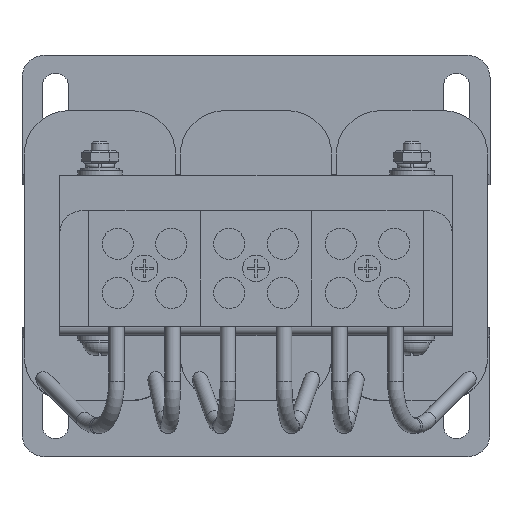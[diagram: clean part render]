
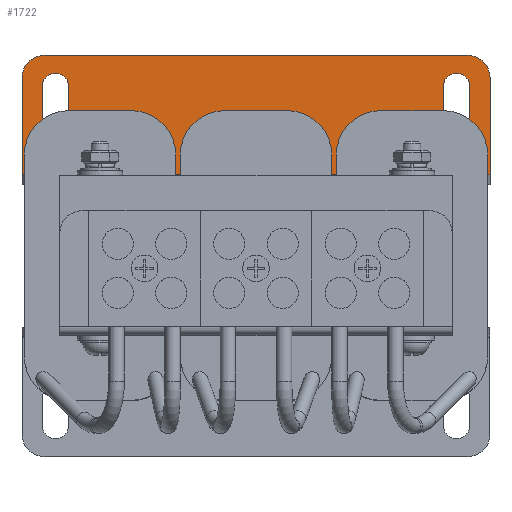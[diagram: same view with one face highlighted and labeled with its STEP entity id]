
A CAD part, top view. The second image highlights one B-rep face of the part: STEP entity #1722.
In plain terms, the highlighted planar face has unit normal (0, 0, 1).
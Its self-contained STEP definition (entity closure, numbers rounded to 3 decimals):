
#1722=ADVANCED_FACE('',(#2062,#2064,#2066),#2068,.T.);
#2062=FACE_BOUND('',#2063,.T.);
#2063=EDGE_LOOP('',(#3661,#3662,#3663,#3664,#3665,#3666));
#2064=FACE_BOUND('',#2065,.T.);
#2065=EDGE_LOOP('',(#3667,#3668,#3669,#3670));
#2066=FACE_BOUND('',#2067,.T.);
#2067=EDGE_LOOP('',(#3671,#3672,#3673,#3674));
#2068=PLANE('',#2069);
#2069=AXIS2_PLACEMENT_3D('',#2070,#2071,#2072);
#2070=CARTESIAN_POINT('',(0.,0.,2.2));
#2071=DIRECTION('',(0.,0.,1.));
#2072=DIRECTION('',(-1.,0.,0.));
#3661=ORIENTED_EDGE('',*,*,#4453,.F.);
#3662=ORIENTED_EDGE('',*,*,#4470,.T.);
#3663=ORIENTED_EDGE('',*,*,#4471,.T.);
#3664=ORIENTED_EDGE('',*,*,#4472,.T.);
#3665=ORIENTED_EDGE('',*,*,#4473,.T.);
#3666=ORIENTED_EDGE('',*,*,#4457,.T.);
#3667=ORIENTED_EDGE('',*,*,#4474,.T.);
#3668=ORIENTED_EDGE('',*,*,#4475,.T.);
#3669=ORIENTED_EDGE('',*,*,#4476,.T.);
#3670=ORIENTED_EDGE('',*,*,#4477,.T.);
#3671=ORIENTED_EDGE('',*,*,#4478,.T.);
#3672=ORIENTED_EDGE('',*,*,#4479,.T.);
#3673=ORIENTED_EDGE('',*,*,#4480,.T.);
#3674=ORIENTED_EDGE('',*,*,#4481,.T.);
#4453=EDGE_CURVE('',#4890,#4888,#4892,.T.);
#4457=EDGE_CURVE('',#4899,#4888,#4900,.T.);
#4470=EDGE_CURVE('',#4890,#4919,#4921,.T.);
#4471=EDGE_CURVE('',#4919,#4922,#4923,.T.);
#4472=EDGE_CURVE('',#4922,#4924,#4925,.T.);
#4473=EDGE_CURVE('',#4924,#4899,#4926,.T.);
#4474=EDGE_CURVE('',#4927,#4928,#4929,.F.);
#4475=EDGE_CURVE('',#4928,#4930,#4931,.F.);
#4476=EDGE_CURVE('',#4930,#4932,#4933,.F.);
#4477=EDGE_CURVE('',#4932,#4927,#4934,.F.);
#4478=EDGE_CURVE('',#4935,#4936,#4937,.F.);
#4479=EDGE_CURVE('',#4936,#4938,#4939,.F.);
#4480=EDGE_CURVE('',#4938,#4940,#4941,.F.);
#4481=EDGE_CURVE('',#4940,#4935,#4942,.F.);
#4888=VERTEX_POINT('',#5654);
#4890=VERTEX_POINT('',#5658);
#4892=LINE('',#5662,#5663);
#4899=VERTEX_POINT('',#5679);
#4900=LINE('',#5680,#5681);
#4919=VERTEX_POINT('',#5725);
#4921=LINE('',#5729,#5730);
#4922=VERTEX_POINT('',#5732);
#4923=CIRCLE('',#5733,5.);
#4924=VERTEX_POINT('',#5737);
#4925=LINE('',#5738,#5739);
#4926=CIRCLE('',#5741,5.);
#4927=VERTEX_POINT('',#5745);
#4928=VERTEX_POINT('',#5746);
#4929=LINE('',#5747,#5748);
#4930=VERTEX_POINT('',#5750);
#4931=CIRCLE('',#5751,3.);
#4932=VERTEX_POINT('',#5755);
#4933=LINE('',#5756,#5757);
#4934=CIRCLE('',#5759,3.);
#4935=VERTEX_POINT('',#5763);
#4936=VERTEX_POINT('',#5764);
#4937=CIRCLE('',#5765,3.);
#4938=VERTEX_POINT('',#5769);
#4939=LINE('',#5770,#5771);
#4940=VERTEX_POINT('',#5773);
#4941=CIRCLE('',#5774,3.);
#4942=LINE('',#5778,#5779);
#5654=CARTESIAN_POINT('',(-52.5,-12.3,2.2));
#5658=CARTESIAN_POINT('',(52.5,-12.3,2.2));
#5662=CARTESIAN_POINT('',(52.5,-12.3,2.2));
#5663=VECTOR('',#5664,1.);
#5664=DIRECTION('',(-1.,0.,0.));
#5679=CARTESIAN_POINT('',(-52.5,9.5,2.2));
#5680=CARTESIAN_POINT('',(-52.5,9.5,2.2));
#5681=VECTOR('',#5682,1.);
#5682=DIRECTION('',(0.,-1.,0.));
#5725=CARTESIAN_POINT('',(52.5,9.5,2.2));
#5729=CARTESIAN_POINT('',(52.5,-12.3,2.2));
#5730=VECTOR('',#5731,1.);
#5731=DIRECTION('',(0.,1.,0.));
#5732=CARTESIAN_POINT('',(47.5,14.5,2.2));
#5733=AXIS2_PLACEMENT_3D('',#5734,#5735,#5736);
#5734=CARTESIAN_POINT('',(47.5,9.5,2.2));
#5735=DIRECTION('',(0.,0.,1.));
#5736=DIRECTION('',(1.,0.,0.));
#5737=CARTESIAN_POINT('',(-47.5,14.5,2.2));
#5738=CARTESIAN_POINT('',(47.5,14.5,2.2));
#5739=VECTOR('',#5740,1.);
#5740=DIRECTION('',(-1.,0.,0.));
#5741=AXIS2_PLACEMENT_3D('',#5742,#5743,#5744);
#5742=CARTESIAN_POINT('',(-47.5,9.5,2.2));
#5743=DIRECTION('',(0.,0.,1.));
#5744=DIRECTION('',(0.,1.,0.));
#5745=CARTESIAN_POINT('',(-42.,7.5,2.2));
#5746=CARTESIAN_POINT('',(-42.,1.5,2.2));
#5747=CARTESIAN_POINT('',(-42.,1.5,2.2));
#5748=VECTOR('',#5749,1.);
#5749=DIRECTION('',(0.,1.,0.));
#5750=CARTESIAN_POINT('',(-48.,1.5,2.2));
#5751=AXIS2_PLACEMENT_3D('',#5752,#5753,#5754);
#5752=CARTESIAN_POINT('',(-45.,1.5,2.2));
#5753=DIRECTION('',(0.,0.,1.));
#5754=DIRECTION('',(-1.,0.,0.));
#5755=CARTESIAN_POINT('',(-48.,7.5,2.2));
#5756=CARTESIAN_POINT('',(-48.,7.5,2.2));
#5757=VECTOR('',#5758,1.);
#5758=DIRECTION('',(0.,-1.,0.));
#5759=AXIS2_PLACEMENT_3D('',#5760,#5761,#5762);
#5760=CARTESIAN_POINT('',(-45.,7.5,2.2));
#5761=DIRECTION('',(0.,-0.,1.));
#5762=DIRECTION('',(1.,0.,0.));
#5763=CARTESIAN_POINT('',(42.,7.5,2.2));
#5764=CARTESIAN_POINT('',(48.,7.5,2.2));
#5765=AXIS2_PLACEMENT_3D('',#5766,#5767,#5768);
#5766=CARTESIAN_POINT('',(45.,7.5,2.2));
#5767=DIRECTION('',(0.,-0.,1.));
#5768=DIRECTION('',(1.,0.,0.));
#5769=CARTESIAN_POINT('',(48.,1.5,2.2));
#5770=CARTESIAN_POINT('',(48.,1.5,2.2));
#5771=VECTOR('',#5772,1.);
#5772=DIRECTION('',(0.,1.,0.));
#5773=CARTESIAN_POINT('',(42.,1.5,2.2));
#5774=AXIS2_PLACEMENT_3D('',#5775,#5776,#5777);
#5775=CARTESIAN_POINT('',(45.,1.5,2.2));
#5776=DIRECTION('',(0.,0.,1.));
#5777=DIRECTION('',(-1.,0.,0.));
#5778=CARTESIAN_POINT('',(42.,7.5,2.2));
#5779=VECTOR('',#5780,1.);
#5780=DIRECTION('',(0.,-1.,0.));
